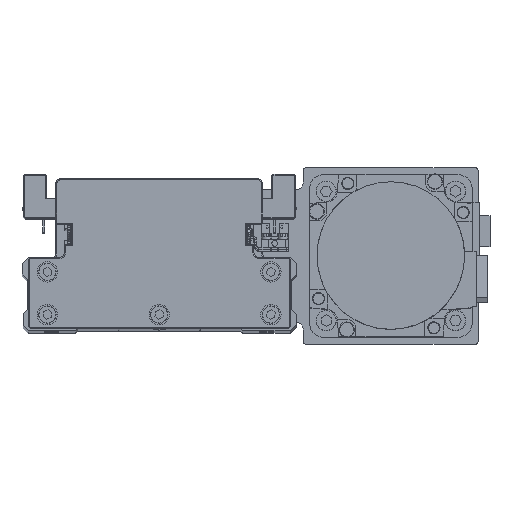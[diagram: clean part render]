
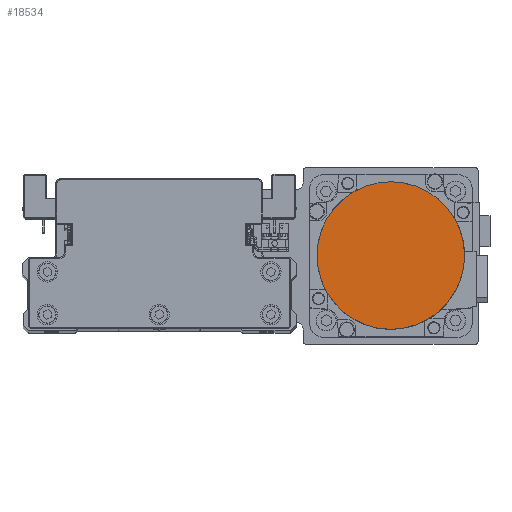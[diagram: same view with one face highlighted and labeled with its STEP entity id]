
A CAD part, top view. The second image highlights one B-rep face of the part: STEP entity #18534.
In plain terms, the highlighted planar face has unit normal (0, 0, 1) as drawn and (0, 0, -1) by its records, which use the part's own axes.
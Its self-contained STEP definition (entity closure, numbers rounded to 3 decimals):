
#570 = EDGE_CURVE ( 'NONE', #7335, #14534, #22542, .T. ) ;
#817 = DIRECTION ( 'NONE',  ( 0., 0., 1. ) ) ;
#1505 = CARTESIAN_POINT ( 'NONE',  ( 0., 0., -122.2 ) ) ;
#3051 = DIRECTION ( 'NONE',  ( 0., 0., 1. ) ) ;
#5227 = AXIS2_PLACEMENT_3D ( 'NONE', #1505, #13773, #26026 ) ;
#6056 = FACE_OUTER_BOUND ( 'NONE', #17958, .T. ) ;
#7335 = VERTEX_POINT ( 'NONE', #10759 ) ;
#9678 = AXIS2_PLACEMENT_3D ( 'NONE', #30567, #3051, #15310 ) ;
#10759 = CARTESIAN_POINT ( 'NONE',  ( 0., 36.3, -122.2 ) ) ;
#13076 = DIRECTION ( 'NONE',  ( 0., -1., 0. ) ) ;
#13773 = DIRECTION ( 'NONE',  ( 0., 0., 1. ) ) ;
#14534 = VERTEX_POINT ( 'NONE', #37417 ) ;
#14557 = ORIENTED_EDGE ( 'NONE', *, *, #14991, .F. ) ;
#14991 = EDGE_CURVE ( 'NONE', #14534, #7335, #15934, .T. ) ;
#15310 = DIRECTION ( 'NONE',  ( 1., 0., 0. ) ) ;
#15934 = CIRCLE ( 'NONE', #38353, 36.3 ) ;
#17958 = EDGE_LOOP ( 'NONE', ( #28625, #14557 ) ) ;
#18317 = PLANE ( 'NONE',  #9678 ) ;
#18534 = ADVANCED_FACE ( 'NONE', ( #6056 ), #18317, .F. ) ;
#22542 = CIRCLE ( 'NONE', #5227, 36.3 ) ;
#26026 = DIRECTION ( 'NONE',  ( 0., 1., 0. ) ) ;
#28343 = CARTESIAN_POINT ( 'NONE',  ( 0., 0., -122.2 ) ) ;
#28625 = ORIENTED_EDGE ( 'NONE', *, *, #570, .F. ) ;
#30567 = CARTESIAN_POINT ( 'NONE',  ( 0., 0., -122.2 ) ) ;
#37417 = CARTESIAN_POINT ( 'NONE',  ( 0., -36.3, -122.2 ) ) ;
#38353 = AXIS2_PLACEMENT_3D ( 'NONE', #28343, #817, #13076 ) ;
